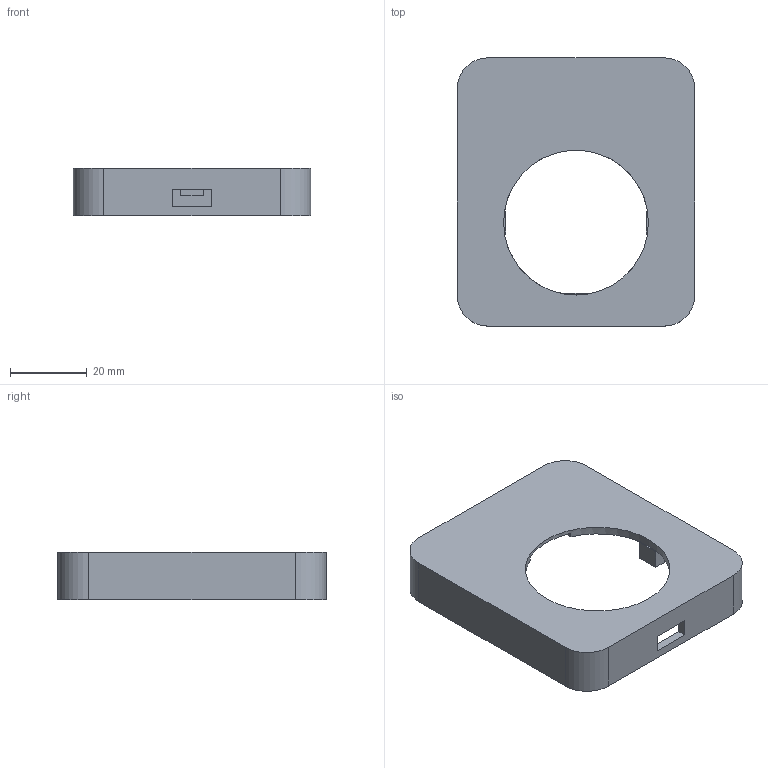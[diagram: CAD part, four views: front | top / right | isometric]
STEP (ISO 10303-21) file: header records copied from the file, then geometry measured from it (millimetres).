
FILE_DESCRIPTION(('Open CASCADE Model'),'2;1');
FILE_NAME('Open CASCADE Shape Model','2026-08-12T19:00:24',('Author'),( 'Open CASCADE'),'Open CASCADE STEP processor 7.9','Open CASCADE 7.9' ,'Unknown');
FILE_SCHEMA(('AUTOMOTIVE_DESIGN { 1 0 10303 214 1 1 1 1 }'));
Length unit declared in the file: millimetre
Products named in the file (1): Open CASCADE STEP translator 7.9 1
Bounding box: 62 x 70 x 12.4 mm (x, y, z)
Volume: 13789.6 mm3; surface area: 13527.8 mm2
Topology: 1 solids, 1 shells, 64 faces, 159 edges, 106 vertices
Faces by surface type: plane 46, cylinder 18
Full cylindrical faces by diameter (mm): 3.2 x4, 6.8 x4, 37.8 x1
Entity records: 3976 total; most frequent: CARTESIAN_POINT 844, DIRECTION 555, ORIENTED_EDGE 318, PCURVE 318, DEFINITIONAL_REPRESENTATION 318, LINE 313, VECTOR 313, EDGE_CURVE 159
